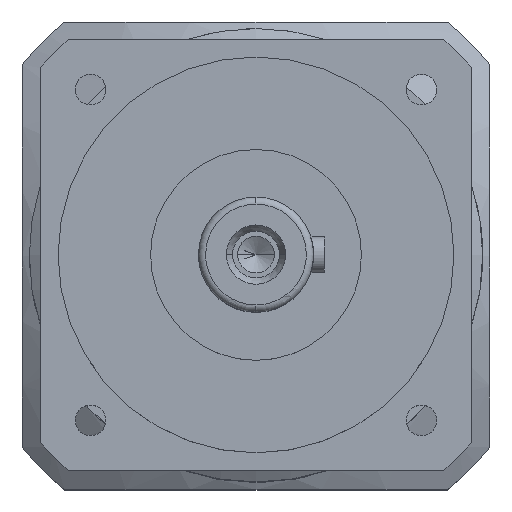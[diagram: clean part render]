
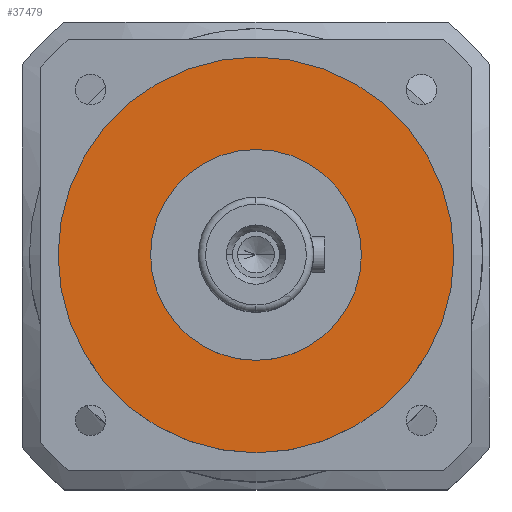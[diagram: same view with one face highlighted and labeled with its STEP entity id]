
A CAD part, top view. The second image highlights one B-rep face of the part: STEP entity #37479.
In plain terms, the highlighted planar face has unit normal (0, 0, 1).
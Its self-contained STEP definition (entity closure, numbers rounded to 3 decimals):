
#94 = CARTESIAN_POINT ( 'NONE',  ( 55., 0., 0. ) ) ;
#1367 = DIRECTION ( 'NONE',  ( -1., 0., 0. ) ) ;
#1765 = AXIS2_PLACEMENT_3D ( 'NONE', #3255, #25439, #6455 ) ;
#3251 = CARTESIAN_POINT ( 'NONE',  ( 29.3, 0., 0. ) ) ;
#3255 = CARTESIAN_POINT ( 'NONE',  ( 0., 0., 0. ) ) ;
#3648 = VERTEX_POINT ( 'NONE', #25650 ) ;
#6455 = DIRECTION ( 'NONE',  ( 1., 0., 0. ) ) ;
#7633 = DIRECTION ( 'NONE',  ( 0., 0., 1. ) ) ;
#8318 = EDGE_CURVE ( 'NONE', #25159, #40183, #32633, .T. ) ;
#9151 = PLANE ( 'NONE',  #23823 ) ;
#9332 = EDGE_CURVE ( 'NONE', #3648, #23791, #9787, .T. ) ;
#9748 = ORIENTED_EDGE ( 'NONE', *, *, #19345, .F. ) ;
#9787 = CIRCLE ( 'NONE', #1765, 55. ) ;
#11805 = ORIENTED_EDGE ( 'NONE', *, *, #8318, .F. ) ;
#12817 = DIRECTION ( 'NONE',  ( 0., 0., -1. ) ) ;
#19179 = CIRCLE ( 'NONE', #31030, 29.3 ) ;
#19345 = EDGE_CURVE ( 'NONE', #23791, #3648, #28475, .T. ) ;
#20369 = DIRECTION ( 'NONE',  ( 0., 0., 1. ) ) ;
#21882 = DIRECTION ( 'NONE',  ( -1., 0., 0. ) ) ;
#23791 = VERTEX_POINT ( 'NONE', #94 ) ;
#23823 = AXIS2_PLACEMENT_3D ( 'NONE', #31282, #40819, #21882 ) ;
#24497 = CARTESIAN_POINT ( 'NONE',  ( -29.3, 0., 0. ) ) ;
#24838 = EDGE_CURVE ( 'NONE', #40183, #25159, #19179, .T. ) ;
#25159 = VERTEX_POINT ( 'NONE', #3251 ) ;
#25439 = DIRECTION ( 'NONE',  ( 0., 0., -1. ) ) ;
#25650 = CARTESIAN_POINT ( 'NONE',  ( -55., 0., 0. ) ) ;
#26601 = CARTESIAN_POINT ( 'NONE',  ( 0., 0., 0. ) ) ;
#27689 = FACE_OUTER_BOUND ( 'NONE', #33659, .T. ) ;
#28287 = AXIS2_PLACEMENT_3D ( 'NONE', #39304, #20369, #1367 ) ;
#28475 = CIRCLE ( 'NONE', #29264, 55. ) ;
#28689 = FACE_BOUND ( 'NONE', #35665, .T. ) ;
#29264 = AXIS2_PLACEMENT_3D ( 'NONE', #31765, #12817, #34944 ) ;
#29787 = DIRECTION ( 'NONE',  ( -1., 0., 0. ) ) ;
#31030 = AXIS2_PLACEMENT_3D ( 'NONE', #26601, #7633, #29787 ) ;
#31282 = CARTESIAN_POINT ( 'NONE',  ( 0., 0., 0. ) ) ;
#31765 = CARTESIAN_POINT ( 'NONE',  ( 0., 0., 0. ) ) ;
#32633 = CIRCLE ( 'NONE', #28287, 29.3 ) ;
#32644 = ORIENTED_EDGE ( 'NONE', *, *, #9332, .F. ) ;
#33659 = EDGE_LOOP ( 'NONE', ( #9748, #32644 ) ) ;
#34944 = DIRECTION ( 'NONE',  ( 1., 0., 0. ) ) ;
#35665 = EDGE_LOOP ( 'NONE', ( #39190, #11805 ) ) ;
#37479 = ADVANCED_FACE ( 'NONE', ( #27689, #28689 ), #9151, .F. ) ;
#39190 = ORIENTED_EDGE ( 'NONE', *, *, #24838, .F. ) ;
#39304 = CARTESIAN_POINT ( 'NONE',  ( 0., 0., 0. ) ) ;
#40183 = VERTEX_POINT ( 'NONE', #24497 ) ;
#40819 = DIRECTION ( 'NONE',  ( 0., 0., -1. ) ) ;
